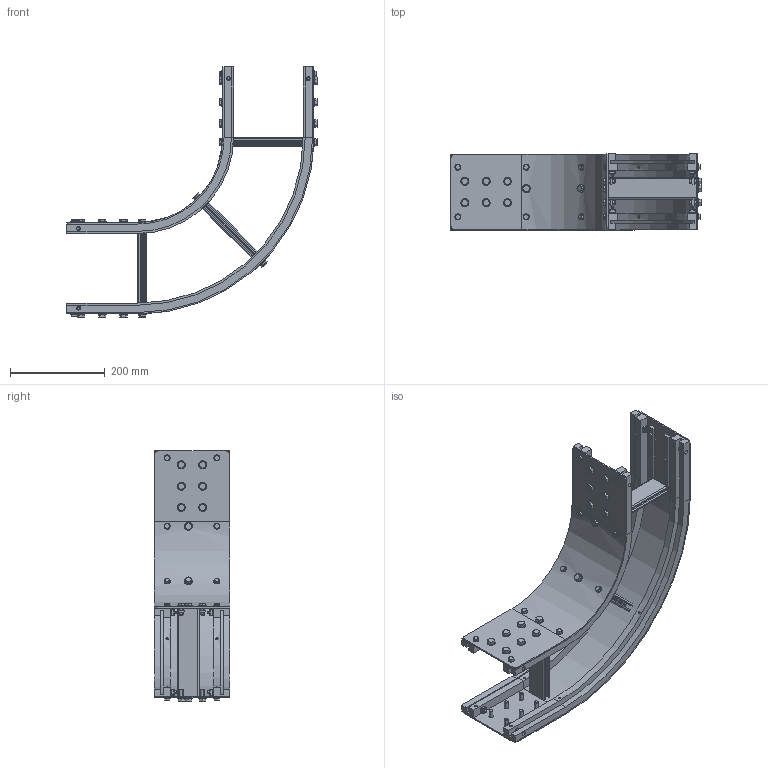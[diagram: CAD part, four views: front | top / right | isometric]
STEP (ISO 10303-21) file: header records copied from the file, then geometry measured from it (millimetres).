
FILE_DESCRIPTION (( 'STEP AP203' ), '1' );
FILE_NAME ('3000.152.490.STEP', '2018-03-09T16:26:39', ( '' ), ( '' ), 'SwSTEP 2.0', 'SolidWorks 2016', '' );
FILE_SCHEMA (( 'CONFIG_CONTROL_DESIGN' ));
Length unit declared in the file: millimetre
Products named in the file (13): 3000.152.490; VITI TE UNI 5739 INOX_M8x20 UNI 5739 INOX; VITI TE UNI 5739 INOX_M6x20 UNI 5739 INOX; 3000.152.018; 084.101.004.XXXX_187<A macchina>; RONDELLE UNI 6592 INOX_8.4x18 UNI 6592 INOX; 084.302.000 DADI ALUSIC 13x13-1_084.302.002; RONDELLE UNI 6592 INOX_6.4x12.5 UNI 6592 INOX; 3000.152.017; 084.302.060; 3000.152.015_curva; 3000.152.016; 084.301.000 VITI ALUSIC_084.301.036
Assembly tree (131 placements, depth 2):
  3000.152.490
    3000.152.017  x2
    3000.152.018  x2
    3000.152.015_curva
    3000.152.016
    084.101.004.XXXX_187<A macchina>  x3
    RONDELLE UNI 6592 INOX_8.4x18 UNI 6592 INOX  x30
    VITI TE UNI 5739 INOX_M8x20 UNI 5739 INOX  x30
    084.302.060  x6
    RONDELLE UNI 6592 INOX_6.4x12.5 UNI 6592 INOX  x20
    VITI TE UNI 5739 INOX_M6x20 UNI 5739 INOX  x20
    084.301.000 VITI ALUSIC_084.301.036  x8
    084.302.000 DADI ALUSIC 13x13-1_084.302.002  x8
Bounding box: 529.48 x 160 x 529.48 mm (x, y, z)
Volume: 2632365.5 mm3; surface area: 1107888.9 mm2
Topology: 131 solids, 131 shells, 2020 faces, 4572 edges, 2888 vertices
Faces by surface type: plane 914, cylinder 626, cone 432, torus 48
Entity records: 19455 total; most frequent: CARTESIAN_POINT 5312, DIRECTION 2096, ORIENTED_EDGE 1852, EDGE_CURVE 926, AXIS2_PLACEMENT_3D 812, VERTEX_POINT 600, EDGE_LOOP 512, VECTOR 472
